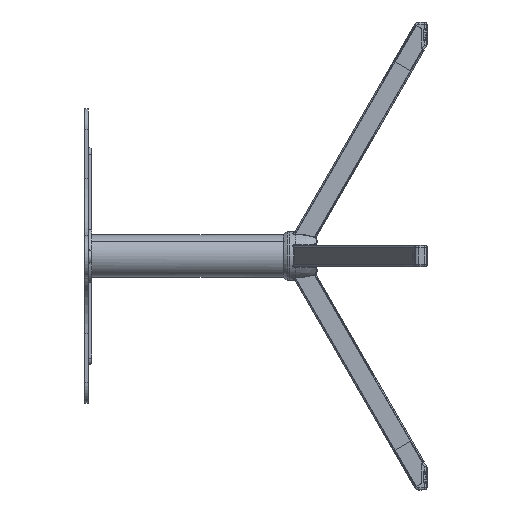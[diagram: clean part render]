
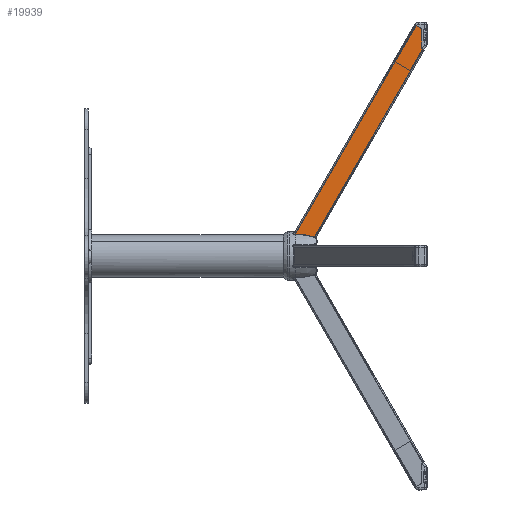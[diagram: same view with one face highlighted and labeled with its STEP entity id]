
A CAD part, left-side view. The second image highlights one B-rep face of the part: STEP entity #19939.
In plain terms, the highlighted planar face has unit normal (-1, 0, 0) as drawn and (0, 0, 1) by its records, which use the part's own axes.
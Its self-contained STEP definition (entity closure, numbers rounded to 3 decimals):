
#317 = DIRECTION ( 'NONE',  ( 0., 1., 0. ) ) ;
#584 = CARTESIAN_POINT ( 'NONE',  ( 5., -12.75, 15. ) ) ;
#600 = ORIENTED_EDGE ( 'NONE', *, *, #2675, .F. ) ;
#779 = CARTESIAN_POINT ( 'NONE',  ( 5., -12.75, 15. ) ) ;
#1013 = EDGE_CURVE ( 'NONE', #16365, #7863, #20057, .T. ) ;
#1128 = AXIS2_PLACEMENT_3D ( 'NONE', #13600, #9219, #5727 ) ;
#1296 = VECTOR ( 'NONE', #11212, 1000. ) ;
#1534 = EDGE_CURVE ( 'NONE', #6940, #5309, #16977, .T. ) ;
#1617 = ORIENTED_EDGE ( 'NONE', *, *, #10083, .T. ) ;
#2250 = DIRECTION ( 'NONE',  ( 0., 0., -1. ) ) ;
#2329 = CARTESIAN_POINT ( 'NONE',  ( 7.5, -1.938, 15. ) ) ;
#2675 = EDGE_CURVE ( 'NONE', #21942, #15017, #10411, .T. ) ;
#3405 = PLANE ( 'NONE',  #21097 ) ;
#3522 = AXIS2_PLACEMENT_3D ( 'NONE', #4340, #15750, #21610 ) ;
#3857 = EDGE_LOOP ( 'NONE', ( #16469, #10936, #20122, #600, #1617, #17975, #7793, #4285 ) ) ;
#3954 = VECTOR ( 'NONE', #20497, 1000. ) ;
#4285 = ORIENTED_EDGE ( 'NONE', *, *, #4871, .F. ) ;
#4340 = CARTESIAN_POINT ( 'NONE',  ( 28.91, 11.577, 15. ) ) ;
#4871 = EDGE_CURVE ( 'NONE', #18119, #6889, #13757, .T. ) ;
#5309 = VERTEX_POINT ( 'NONE', #10336 ) ;
#5626 = CARTESIAN_POINT ( 'NONE',  ( 367.432, -12.75, 15. ) ) ;
#5727 = DIRECTION ( 'NONE',  ( -1., 0., 0. ) ) ;
#6889 = VERTEX_POINT ( 'NONE', #19092 ) ;
#6940 = VERTEX_POINT ( 'NONE', #2329 ) ;
#7330 = CARTESIAN_POINT ( 'NONE',  ( 390., -15., 15. ) ) ;
#7793 = ORIENTED_EDGE ( 'NONE', *, *, #9389, .F. ) ;
#7863 = VERTEX_POINT ( 'NONE', #8754 ) ;
#8592 = LINE ( 'NONE', #13714, #14059 ) ;
#8754 = CARTESIAN_POINT ( 'NONE',  ( 29.91, 12.75, 15. ) ) ;
#9219 = DIRECTION ( 'NONE',  ( 0., 0., 1. ) ) ;
#9389 = EDGE_CURVE ( 'NONE', #6889, #7863, #11232, .T. ) ;
#10083 = EDGE_CURVE ( 'NONE', #21942, #16365, #10404, .T. ) ;
#10336 = CARTESIAN_POINT ( 'NONE',  ( 5., -6.269, 15. ) ) ;
#10404 = LINE ( 'NONE', #21709, #1296 ) ;
#10411 = LINE ( 'NONE', #12014, #18477 ) ;
#10673 = DIRECTION ( 'NONE',  ( -1., 0., 0. ) ) ;
#10936 = ORIENTED_EDGE ( 'NONE', *, *, #1534, .T. ) ;
#11171 = VECTOR ( 'NONE', #10673, 1000. ) ;
#11206 = CARTESIAN_POINT ( 'NONE',  ( 352.709, 12.75, 15. ) ) ;
#11212 = DIRECTION ( 'NONE',  ( -0.5, 0.866, 0. ) ) ;
#11232 = LINE ( 'NONE', #22970, #23389 ) ;
#11650 = FACE_OUTER_BOUND ( 'NONE', #3857, .T. ) ;
#11736 = DIRECTION ( 'NONE',  ( 0.866, 0.5, 0. ) ) ;
#11879 = EDGE_CURVE ( 'NONE', #15017, #5309, #13169, .T. ) ;
#12014 = CARTESIAN_POINT ( 'NONE',  ( 390., -12.75, 15. ) ) ;
#12295 = CARTESIAN_POINT ( 'NONE',  ( 29.41, 10.711, 15. ) ) ;
#13169 = LINE ( 'NONE', #584, #3954 ) ;
#13600 = CARTESIAN_POINT ( 'NONE',  ( 10., -6.269, 15. ) ) ;
#13714 = CARTESIAN_POINT ( 'NONE',  ( 5., -3.382, 15. ) ) ;
#13757 = CIRCLE ( 'NONE', #3522, 1. ) ;
#14059 = VECTOR ( 'NONE', #11736, 1000. ) ;
#14223 = CARTESIAN_POINT ( 'NONE',  ( 390., 12.75, 15. ) ) ;
#15017 = VERTEX_POINT ( 'NONE', #779 ) ;
#15750 = DIRECTION ( 'NONE',  ( 0., 0., 1. ) ) ;
#16365 = VERTEX_POINT ( 'NONE', #11206 ) ;
#16469 = ORIENTED_EDGE ( 'NONE', *, *, #21428, .F. ) ;
#16977 = CIRCLE ( 'NONE', #1128, 5. ) ;
#17102 = DIRECTION ( 'NONE',  ( -1., 0., 0. ) ) ;
#17975 = ORIENTED_EDGE ( 'NONE', *, *, #1013, .T. ) ;
#18119 = VERTEX_POINT ( 'NONE', #12295 ) ;
#18477 = VECTOR ( 'NONE', #24135, 1000. ) ;
#19092 = CARTESIAN_POINT ( 'NONE',  ( 29.91, 11.577, 15. ) ) ;
#19939 = ADVANCED_FACE ( 'NONE', ( #11650 ), #3405, .F. ) ;
#20057 = LINE ( 'NONE', #14223, #11171 ) ;
#20122 = ORIENTED_EDGE ( 'NONE', *, *, #11879, .F. ) ;
#20497 = DIRECTION ( 'NONE',  ( 0., 1., 0. ) ) ;
#21097 = AXIS2_PLACEMENT_3D ( 'NONE', #7330, #2250, #17102 ) ;
#21428 = EDGE_CURVE ( 'NONE', #6940, #18119, #8592, .T. ) ;
#21610 = DIRECTION ( 'NONE',  ( -1., 0., 0. ) ) ;
#21709 = CARTESIAN_POINT ( 'NONE',  ( 374.048, -24.21, 15. ) ) ;
#21942 = VERTEX_POINT ( 'NONE', #5626 ) ;
#22970 = CARTESIAN_POINT ( 'NONE',  ( 29.91, 11.577, 15. ) ) ;
#23389 = VECTOR ( 'NONE', #317, 1000. ) ;
#24135 = DIRECTION ( 'NONE',  ( -1., 0., 0. ) ) ;
